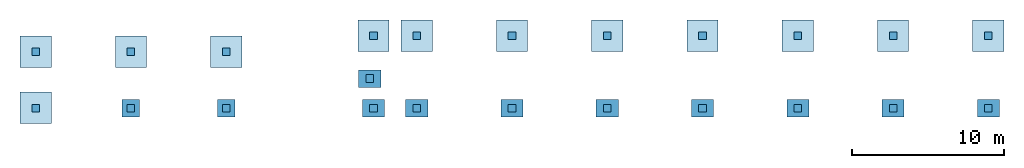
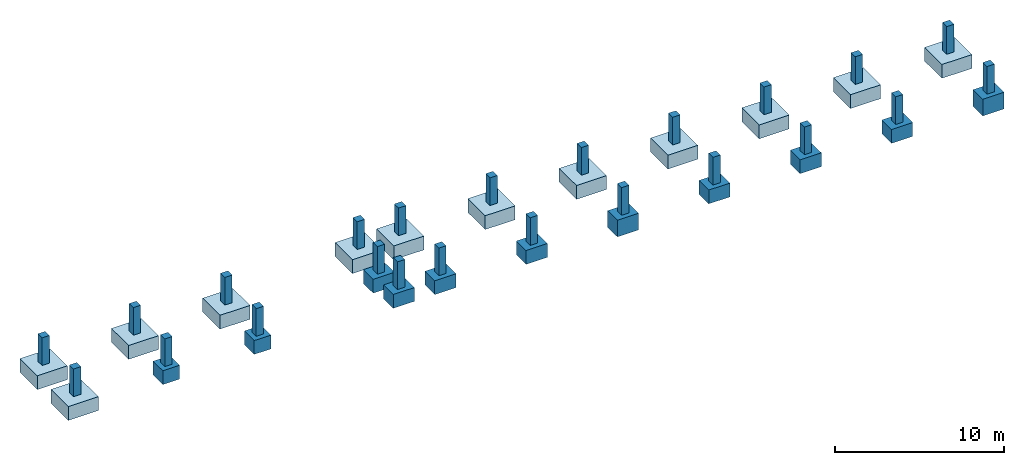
# One storey: 46 footings.
"""IFC2X3 building model written with IfcOpenShell, lengths in metres."""

from ifc_helpers import new_model, entity, si_unit, converted_unit, derived_unit, frame, frame_2d, origin, origin_with_axes, place, context, subcontext, project, spatial, rectangle, extrude, material, element, save


model = new_model("IFC2X3")

# Units and contexts
model_context = context("Model", 3, precision=1e-05, world=origin())
body_context = subcontext(model_context, "Body", "Model", "MODEL_VIEW")
ifc_project = project(units=[si_unit("LENGTHUNIT", "METRE"), si_unit("AREAUNIT", "SQUARE_METRE"), si_unit("VOLUMEUNIT", "CUBIC_METRE"), si_unit("MASSUNIT", "GRAM", prefix="KILO"), converted_unit("PLANEANGLEUNIT", "DEGREE", entity("IfcPlaneAngleMeasure", 0.0174532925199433), si_unit("PLANEANGLEUNIT", "RADIAN"), dimensions=[0, 0, 0, 0, 0, 0, 0]), derived_unit("THERMALTRANSMITTANCEUNIT", [(si_unit("POWERUNIT", "WATT"), 1), (si_unit("THERMODYNAMICTEMPERATUREUNIT", "KELVIN"), -1), (si_unit("LENGTHUNIT", "METRE"), -2)]), derived_unit("VOLUMETRICFLOWRATEUNIT", [(si_unit("LENGTHUNIT", "METRE"), 3), (converted_unit("TIMEUNIT", "hour", entity("IfcTimeMeasure", 3600.0), si_unit("TIMEUNIT", "SECOND"), dimensions=[0, 0, 1, 0, 0, 0, 0]), -1), (si_unit("LENGTHUNIT", "METRE"), -1)])], contexts=[model_context])

# Site, building, storey
site_placement = place(None, origin())
site = spatial("IfcSite", under=ifc_project, at=site_placement, Name="TWP_Speiseverteilzentrum SBW VZ II", CompositionType="ELEMENT")
building_placement = place(site_placement, origin())
building = spatial("IfcBuilding", under=site, at=building_placement, Name="Speiseverteilzentrum SBW VZ II", CompositionType="ELEMENT")
storey_placement = place(building_placement, frame((0.0, 0.0, -1.884)))
storey = spatial("IfcBuildingStorey", under=building, at=storey_placement, Name="Grundleitungsebene", CompositionType="ELEMENT", Elevation=-1.884)

# Footings
ifc_material_1 = material(Name="Stahlbeton")
footing_1_placement = place(storey_placement, frame((109.75, 87.2249999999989, 1.2)))
element("IfcFooting", 1, at=footing_1_placement, inside=storey, material=ifc_material_1, Name="Stb.-Sockel", ObjectType="COLUMN_FOUNDATION", PredefinedType="USERDEFINED", context=body_context, shape_type="SweptSolid", body=[
    extrude(rectangle(XDim=0.5, YDim=0.5, at=frame_2d((0.25, 0.25), x_axis=(1.0, 0.0))), origin_with_axes(), (0.0, 0.0, 1.0), 2.0),
])
ifc_material_2 = material(Name="Stahlbeton")
footing_2_placement = place(storey_placement, frame((84.75, 87.2249999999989, 1.2)))
element("IfcFooting", 2, at=footing_2_placement, inside=storey, material=ifc_material_2, Name="Stb.-Sockel", ObjectType="COLUMN_FOUNDATION", PredefinedType="USERDEFINED", context=body_context, shape_type="SweptSolid", body=[
    extrude(rectangle(XDim=0.5, YDim=0.5, at=frame_2d((0.25, 0.25), x_axis=(1.0, 0.0))), origin_with_axes(), (0.0, 0.0, 1.0), 2.0),
])
ifc_material_3 = material(Name="Stahlbeton")
footing_3_placement = place(storey_placement, frame((109.275000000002, 86.8999999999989, 0.0)))
element("IfcFooting", 3, at=footing_3_placement, inside=storey, material=ifc_material_3, Name="Stb.-Einzelfundament", ObjectType="COLUMN_FOUNDATION", PredefinedType="USERDEFINED", context=body_context, shape_type="SweptSolid", body=[
    extrude(rectangle(XDim=1.45, YDim=1.15, at=frame_2d((0.725, 0.575), x_axis=(1.0, 0.0))), origin_with_axes(), (0.0, 0.0, 1.0), 1.2),
])
ifc_material_4 = material(Name="Stahlbeton")
footing_4_placement = place(storey_placement, frame((84.275000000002, 86.8999999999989, 0.0)))
element("IfcFooting", 4, at=footing_4_placement, inside=storey, material=ifc_material_4, Name="Stb.-Einzelfundament", ObjectType="COLUMN_FOUNDATION", PredefinedType="USERDEFINED", context=body_context, shape_type="SweptSolid", body=[
    extrude(rectangle(XDim=1.45, YDim=1.15, at=frame_2d((0.725, 0.575), x_axis=(1.0, 0.0))), origin_with_axes(), (0.0, 0.0, 1.0), 1.2),
])
ifc_material_5 = material(Name="Stahlbeton")
footing_5_placement = place(storey_placement, frame((78.5, 87.2249999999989, 1.2)))
element("IfcFooting", 5, at=footing_5_placement, inside=storey, material=ifc_material_5, Name="Stb.-Sockel", ObjectType="COLUMN_FOUNDATION", PredefinedType="USERDEFINED", context=body_context, shape_type="SweptSolid", body=[
    extrude(rectangle(XDim=0.5, YDim=0.5, at=frame_2d((0.25, 0.25), x_axis=(1.0, 0.0))), origin_with_axes(), (0.0, 0.0, 1.0), 2.0),
])
ifc_material_6 = material(Name="Stahlbeton")
footing_6_placement = place(storey_placement, frame((72.25, 87.2249999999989, 1.2)))
element("IfcFooting", 6, at=footing_6_placement, inside=storey, material=ifc_material_6, Name="Stb.-Sockel", ObjectType="COLUMN_FOUNDATION", PredefinedType="USERDEFINED", context=body_context, shape_type="SweptSolid", body=[
    extrude(rectangle(XDim=0.5, YDim=0.5, at=frame_2d((0.25, 0.25), x_axis=(1.0, 0.0))), origin_with_axes(), (0.0, 0.0, 1.0), 2.0),
])
ifc_material_7 = material(Name="Stahlbeton")
footing_7_placement = place(storey_placement, frame((69.1687031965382, 89.1849999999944, 1.2)))
element("IfcFooting", 7, at=footing_7_placement, inside=storey, material=ifc_material_7, Name="Stb.-Sockel", ObjectType="COLUMN_FOUNDATION", PredefinedType="USERDEFINED", context=body_context, shape_type="SweptSolid", body=[
    extrude(rectangle(XDim=0.5, YDim=0.5, at=frame_2d((0.25, 0.25), x_axis=(1.0, 0.0))), origin_with_axes(), (0.0, 0.0, 1.0), 2.0),
])
ifc_material_8 = material(Name="Stahlbeton")
footing_8_placement = place(storey_placement, frame((69.4137031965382, 87.2249999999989, 1.2)))
element("IfcFooting", 8, at=footing_8_placement, inside=storey, material=ifc_material_8, Name="Stb.-Sockel", ObjectType="COLUMN_FOUNDATION", PredefinedType="USERDEFINED", context=body_context, shape_type="SweptSolid", body=[
    extrude(rectangle(XDim=0.5, YDim=0.5, at=frame_2d((0.25, 0.25), x_axis=(1.0, 0.0))), origin_with_axes(), (0.0, 0.0, 1.0), 2.0),
])
ifc_material_9 = material(Name="Stahlbeton")
footing_9_placement = place(storey_placement, frame((68.6937031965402, 88.8599999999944, 0.2)))
element("IfcFooting", 9, at=footing_9_placement, inside=storey, material=ifc_material_9, Name="Stb.-Einzelfundament", ObjectType="COLUMN_FOUNDATION", PredefinedType="USERDEFINED", context=body_context, shape_type="SweptSolid", body=[
    extrude(rectangle(XDim=1.45, YDim=1.15, at=frame_2d((0.725, 0.575), x_axis=(1.0, 0.0))), origin_with_axes(), (0.0, 0.0, 1.0), 1.0),
])
ifc_material_10 = material(Name="Stahlbeton")
footing_10_placement = place(storey_placement, frame((78.025000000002, 86.8999999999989, 0.2)))
element("IfcFooting", 10, at=footing_10_placement, inside=storey, material=ifc_material_10, Name="Stb.-Einzelfundament", ObjectType="COLUMN_FOUNDATION", PredefinedType="USERDEFINED", context=body_context, shape_type="SweptSolid", body=[
    extrude(rectangle(XDim=1.45, YDim=1.15, at=frame_2d((0.725, 0.575), x_axis=(1.0, 0.0))), origin_with_axes(), (0.0, 0.0, 1.0), 1.0),
])
ifc_material_11 = material(Name="Stahlbeton")
footing_11_placement = place(storey_placement, frame((71.775000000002, 86.8999999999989, 0.2)))
element("IfcFooting", 11, at=footing_11_placement, inside=storey, material=ifc_material_11, Name="Stb.-Einzelfundament", ObjectType="COLUMN_FOUNDATION", PredefinedType="USERDEFINED", context=body_context, shape_type="SweptSolid", body=[
    extrude(rectangle(XDim=1.45, YDim=1.15, at=frame_2d((0.725, 0.575), x_axis=(1.0, 0.0))), origin_with_axes(), (0.0, 0.0, 1.0), 1.0),
])
ifc_material_12 = material(Name="Stahlbeton")
footing_12_placement = place(storey_placement, frame((68.9387031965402, 86.8999999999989, 0.2)))
element("IfcFooting", 12, at=footing_12_placement, inside=storey, material=ifc_material_12, Name="Stb.-Einzelfundament", ObjectType="COLUMN_FOUNDATION", PredefinedType="USERDEFINED", context=body_context, shape_type="SweptSolid", body=[
    extrude(rectangle(XDim=1.45, YDim=1.15, at=frame_2d((0.725, 0.575), x_axis=(1.0, 0.0))), origin_with_axes(), (0.0, 0.0, 1.0), 1.0),
])
ifc_material_13 = material(Name="Stahlbeton")
footing_13_placement = place(storey_placement, frame((53.5, 87.2249999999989, 1.2)))
element("IfcFooting", 13, at=footing_13_placement, inside=storey, material=ifc_material_13, Name="Stb.-Sockel", ObjectType="COLUMN_FOUNDATION", PredefinedType="USERDEFINED", context=body_context, shape_type="SweptSolid", body=[
    extrude(rectangle(XDim=0.5, YDim=0.5, at=frame_2d((0.25, 0.25), x_axis=(1.0, 0.0))), origin_with_axes(), (0.0, 0.0, 1.0), 2.0),
])
ifc_material_14 = material(Name="Stahlbeton")
footing_14_placement = place(storey_placement, frame((59.75, 87.2249999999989, 1.2)))
element("IfcFooting", 14, at=footing_14_placement, inside=storey, material=ifc_material_14, Name="Stb.-Sockel", ObjectType="COLUMN_FOUNDATION", PredefinedType="USERDEFINED", context=body_context, shape_type="SweptSolid", body=[
    extrude(rectangle(XDim=0.5, YDim=0.5, at=frame_2d((0.25, 0.25), x_axis=(1.0, 0.0))), origin_with_axes(), (0.0, 0.0, 1.0), 2.0),
])
ifc_material_15 = material(Name="Stahlbeton")
footing_15_placement = place(storey_placement, frame((91.0, 87.2249999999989, 1.2)))
element("IfcFooting", 15, at=footing_15_placement, inside=storey, material=ifc_material_15, Name="Stb.-Sockel", ObjectType="COLUMN_FOUNDATION", PredefinedType="USERDEFINED", context=body_context, shape_type="SweptSolid", body=[
    extrude(rectangle(XDim=0.5, YDim=0.5, at=frame_2d((0.25, 0.25), x_axis=(1.0, 0.0))), origin_with_axes(), (0.0, 0.0, 1.0), 2.0),
])
ifc_material_16 = material(Name="Stahlbeton")
footing_16_placement = place(storey_placement, frame((97.25, 87.2249999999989, 1.2)))
element("IfcFooting", 16, at=footing_16_placement, inside=storey, material=ifc_material_16, Name="Stb.-Sockel", ObjectType="COLUMN_FOUNDATION", PredefinedType="USERDEFINED", context=body_context, shape_type="SweptSolid", body=[
    extrude(rectangle(XDim=0.5, YDim=0.5, at=frame_2d((0.25, 0.25), x_axis=(1.0, 0.0))), origin_with_axes(), (0.0, 0.0, 1.0), 2.0),
])
ifc_material_17 = material(Name="Stahlbeton")
footing_17_placement = place(storey_placement, frame((103.5, 87.2249999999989, 1.2)))
element("IfcFooting", 17, at=footing_17_placement, inside=storey, material=ifc_material_17, Name="Stb.-Sockel", ObjectType="COLUMN_FOUNDATION", PredefinedType="USERDEFINED", context=body_context, shape_type="SweptSolid", body=[
    extrude(rectangle(XDim=0.5, YDim=0.5, at=frame_2d((0.25, 0.25), x_axis=(1.0, 0.0))), origin_with_axes(), (0.0, 0.0, 1.0), 2.0),
])
ifc_material_18 = material(Name="Stahlbeton")
footing_18_placement = place(storey_placement, frame((90.525000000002, 86.8999999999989, 0.2)))
element("IfcFooting", 18, at=footing_18_placement, inside=storey, material=ifc_material_18, Name="Stb.-Einzelfundament", ObjectType="COLUMN_FOUNDATION", PredefinedType="USERDEFINED", context=body_context, shape_type="SweptSolid", body=[
    extrude(rectangle(XDim=1.45, YDim=1.15, at=frame_2d((0.725, 0.575), x_axis=(1.0, 0.0))), origin_with_axes(), (0.0, 0.0, 1.0), 1.0),
])
ifc_material_19 = material(Name="Stahlbeton")
footing_19_placement = place(storey_placement, frame((96.775000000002, 86.8999999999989, 0.2)))
element("IfcFooting", 19, at=footing_19_placement, inside=storey, material=ifc_material_19, Name="Stb.-Einzelfundament", ObjectType="COLUMN_FOUNDATION", PredefinedType="USERDEFINED", context=body_context, shape_type="SweptSolid", body=[
    extrude(rectangle(XDim=1.45, YDim=1.15, at=frame_2d((0.725, 0.575), x_axis=(1.0, 0.0))), origin_with_axes(), (0.0, 0.0, 1.0), 1.0),
])
ifc_material_20 = material(Name="Stahlbeton")
footing_20_placement = place(storey_placement, frame((103.025000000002, 86.8999999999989, 0.2)))
element("IfcFooting", 20, at=footing_20_placement, inside=storey, material=ifc_material_20, Name="Stb.-Einzelfundament", ObjectType="COLUMN_FOUNDATION", PredefinedType="USERDEFINED", context=body_context, shape_type="SweptSolid", body=[
    extrude(rectangle(XDim=1.45, YDim=1.15, at=frame_2d((0.725, 0.575), x_axis=(1.0, 0.0))), origin_with_axes(), (0.0, 0.0, 1.0), 1.0),
])
ifc_material_21 = material(Name="Stahlbeton")
footing_21_placement = place(storey_placement, frame((53.175, 86.8999999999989, 0.2)))
element("IfcFooting", 21, at=footing_21_placement, inside=storey, material=ifc_material_21, Name="Stb.-Einzelfundament", ObjectType="COLUMN_FOUNDATION", PredefinedType="USERDEFINED", context=body_context, shape_type="SweptSolid", body=[
    extrude(rectangle(XDim=1.15, YDim=1.15, at=frame_2d((0.575, 0.575), x_axis=(1.0, 0.0))), origin_with_axes(), (0.0, 0.0, 1.0), 1.0),
])
ifc_material_22 = material(Name="Stahlbeton")
footing_22_placement = place(storey_placement, frame((59.425, 86.8999999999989, 0.2)))
element("IfcFooting", 22, at=footing_22_placement, inside=storey, material=ifc_material_22, Name="Stb.-Einzelfundament", ObjectType="COLUMN_FOUNDATION", PredefinedType="USERDEFINED", context=body_context, shape_type="SweptSolid", body=[
    extrude(rectangle(XDim=1.15, YDim=1.15, at=frame_2d((0.575, 0.575), x_axis=(1.0, 0.0))), origin_with_axes(), (0.0, 0.0, 1.0), 1.0),
])
ifc_material_23 = material(Name="Stahlbeton")
footing_23_placement = place(storey_placement, frame((109.75, 91.9999999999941, 1.2)))
element("IfcFooting", 23, at=footing_23_placement, inside=storey, material=ifc_material_23, Name="Stb.-Sockel", ObjectType="COLUMN_FOUNDATION", PredefinedType="USERDEFINED", context=body_context, shape_type="SweptSolid", body=[
    extrude(rectangle(XDim=0.5, YDim=0.5, at=frame_2d((0.25, 0.25), x_axis=(1.0, 0.0))), origin_with_axes(), (0.0, 0.0, 1.0), 2.0),
])
ifc_material_24 = material(Name="Stahlbeton")
footing_24_placement = place(storey_placement, frame((108.975, 91.2249999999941, 0.2)))
element("IfcFooting", 24, at=footing_24_placement, inside=storey, material=ifc_material_24, Name="Stb.-Einzelfundament", PredefinedType="PAD_FOOTING", context=body_context, shape_type="SweptSolid", body=[
    extrude(rectangle(XDim=2.05, YDim=2.05, at=frame_2d((1.025, 1.025), x_axis=(1.0, 0.0))), origin_with_axes(), (0.0, 0.0, 1.0), 1.0),
])
ifc_material_25 = material(Name="Stahlbeton")
footing_25_placement = place(storey_placement, frame((103.5, 91.9999999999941, 1.2)))
element("IfcFooting", 25, at=footing_25_placement, inside=storey, material=ifc_material_25, Name="Stb.-Sockel", ObjectType="COLUMN_FOUNDATION", PredefinedType="USERDEFINED", context=body_context, shape_type="SweptSolid", body=[
    extrude(rectangle(XDim=0.5, YDim=0.5, at=frame_2d((0.25, 0.25), x_axis=(1.0, 0.0))), origin_with_axes(), (0.0, 0.0, 1.0), 2.0),
])
ifc_material_26 = material(Name="Stahlbeton")
footing_26_placement = place(storey_placement, frame((97.25, 91.9999999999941, 1.2)))
element("IfcFooting", 26, at=footing_26_placement, inside=storey, material=ifc_material_26, Name="Stb.-Sockel", ObjectType="COLUMN_FOUNDATION", PredefinedType="USERDEFINED", context=body_context, shape_type="SweptSolid", body=[
    extrude(rectangle(XDim=0.5, YDim=0.5, at=frame_2d((0.25, 0.25), x_axis=(1.0, 0.0))), origin_with_axes(), (0.0, 0.0, 1.0), 2.0),
])
ifc_material_27 = material(Name="Stahlbeton")
footing_27_placement = place(storey_placement, frame((91.0, 91.9999999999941, 1.2)))
element("IfcFooting", 27, at=footing_27_placement, inside=storey, material=ifc_material_27, Name="Stb.-Sockel", ObjectType="COLUMN_FOUNDATION", PredefinedType="USERDEFINED", context=body_context, shape_type="SweptSolid", body=[
    extrude(rectangle(XDim=0.5, YDim=0.5, at=frame_2d((0.25, 0.25), x_axis=(1.0, 0.0))), origin_with_axes(), (0.0, 0.0, 1.0), 2.0),
])
ifc_material_28 = material(Name="Stahlbeton")
footing_28_placement = place(storey_placement, frame((84.75, 91.9999999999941, 1.2)))
element("IfcFooting", 28, at=footing_28_placement, inside=storey, material=ifc_material_28, Name="Stb.-Sockel", ObjectType="COLUMN_FOUNDATION", PredefinedType="USERDEFINED", context=body_context, shape_type="SweptSolid", body=[
    extrude(rectangle(XDim=0.5, YDim=0.5, at=frame_2d((0.25, 0.25), x_axis=(1.0, 0.0))), origin_with_axes(), (0.0, 0.0, 1.0), 2.0),
])
ifc_material_29 = material(Name="Stahlbeton")
footing_29_placement = place(storey_placement, frame((78.5, 91.9999999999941, 1.2)))
element("IfcFooting", 29, at=footing_29_placement, inside=storey, material=ifc_material_29, Name="Stb.-Sockel", ObjectType="COLUMN_FOUNDATION", PredefinedType="USERDEFINED", context=body_context, shape_type="SweptSolid", body=[
    extrude(rectangle(XDim=0.5, YDim=0.5, at=frame_2d((0.25, 0.25), x_axis=(1.0, 0.0))), origin_with_axes(), (0.0, 0.0, 1.0), 2.0),
])
ifc_material_30 = material(Name="Stahlbeton")
footing_30_placement = place(storey_placement, frame((72.25, 91.9999999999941, 1.2)))
element("IfcFooting", 30, at=footing_30_placement, inside=storey, material=ifc_material_30, Name="Stb.-Sockel", ObjectType="COLUMN_FOUNDATION", PredefinedType="USERDEFINED", context=body_context, shape_type="SweptSolid", body=[
    extrude(rectangle(XDim=0.5, YDim=0.5, at=frame_2d((0.25, 0.25), x_axis=(1.0, 0.0))), origin_with_axes(), (0.0, 0.0, 1.0), 2.0),
])
ifc_material_31 = material(Name="Stahlbeton")
footing_31_placement = place(storey_placement, frame((69.4137031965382, 91.9999999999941, 1.2)))
element("IfcFooting", 31, at=footing_31_placement, inside=storey, material=ifc_material_31, Name="Stb.-Sockel", ObjectType="COLUMN_FOUNDATION", PredefinedType="USERDEFINED", context=body_context, shape_type="SweptSolid", body=[
    extrude(rectangle(XDim=0.5, YDim=0.5, at=frame_2d((0.25, 0.25), x_axis=(1.0, 0.0))), origin_with_axes(), (0.0, 0.0, 1.0), 2.0),
])
ifc_material_32 = material(Name="Stahlbeton")
footing_32_placement = place(storey_placement, frame((102.725, 91.2249999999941, 0.2)))
element("IfcFooting", 32, at=footing_32_placement, inside=storey, material=ifc_material_32, Name="Stb.-Einzelfundament", PredefinedType="PAD_FOOTING", context=body_context, shape_type="SweptSolid", body=[
    extrude(rectangle(XDim=2.05, YDim=2.05, at=frame_2d((1.025, 1.025), x_axis=(1.0, 0.0))), origin_with_axes(), (0.0, 0.0, 1.0), 1.0),
])
ifc_material_33 = material(Name="Stahlbeton")
footing_33_placement = place(storey_placement, frame((96.475, 91.2249999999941, 0.2)))
element("IfcFooting", 33, at=footing_33_placement, inside=storey, material=ifc_material_33, Name="Stb.-Einzelfundament", PredefinedType="PAD_FOOTING", context=body_context, shape_type="SweptSolid", body=[
    extrude(rectangle(XDim=2.05, YDim=2.05, at=frame_2d((1.025, 1.025), x_axis=(1.0, 0.0))), origin_with_axes(), (0.0, 0.0, 1.0), 1.0),
])
ifc_material_34 = material(Name="Stahlbeton")
footing_34_placement = place(storey_placement, frame((90.225, 91.2249999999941, 0.2)))
element("IfcFooting", 34, at=footing_34_placement, inside=storey, material=ifc_material_34, Name="Stb.-Einzelfundament", PredefinedType="PAD_FOOTING", context=body_context, shape_type="SweptSolid", body=[
    extrude(rectangle(XDim=2.05, YDim=2.05, at=frame_2d((1.025, 1.025), x_axis=(1.0, 0.0))), origin_with_axes(), (0.0, 0.0, 1.0), 1.0),
])
ifc_material_35 = material(Name="Stahlbeton")
footing_35_placement = place(storey_placement, frame((83.975, 91.2249999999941, 0.2)))
element("IfcFooting", 35, at=footing_35_placement, inside=storey, material=ifc_material_35, Name="Stb.-Einzelfundament", PredefinedType="PAD_FOOTING", context=body_context, shape_type="SweptSolid", body=[
    extrude(rectangle(XDim=2.05, YDim=2.05, at=frame_2d((1.025, 1.025), x_axis=(1.0, 0.0))), origin_with_axes(), (0.0, 0.0, 1.0), 1.0),
])
ifc_material_36 = material(Name="Stahlbeton")
footing_36_placement = place(storey_placement, frame((77.725, 91.2249999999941, 0.2)))
element("IfcFooting", 36, at=footing_36_placement, inside=storey, material=ifc_material_36, Name="Stb.-Einzelfundament", PredefinedType="PAD_FOOTING", context=body_context, shape_type="SweptSolid", body=[
    extrude(rectangle(XDim=2.05, YDim=2.05, at=frame_2d((1.025, 1.025), x_axis=(1.0, 0.0))), origin_with_axes(), (0.0, 0.0, 1.0), 1.0),
])
ifc_material_37 = material(Name="Stahlbeton")
footing_37_placement = place(storey_placement, frame((71.475, 91.2249999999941, 0.2)))
element("IfcFooting", 37, at=footing_37_placement, inside=storey, material=ifc_material_37, Name="Stb.-Einzelfundament", PredefinedType="PAD_FOOTING", context=body_context, shape_type="SweptSolid", body=[
    extrude(rectangle(XDim=2.05, YDim=2.05, at=frame_2d((1.025, 1.025), x_axis=(1.0, 0.0))), origin_with_axes(), (0.0, 0.0, 1.0), 1.0),
])
ifc_material_38 = material(Name="Stahlbeton")
footing_38_placement = place(storey_placement, frame((68.6387031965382, 91.2249999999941, 0.2)))
element("IfcFooting", 38, at=footing_38_placement, inside=storey, material=ifc_material_38, Name="Stb.-Einzelfundament", PredefinedType="PAD_FOOTING", context=body_context, shape_type="SweptSolid", body=[
    extrude(rectangle(XDim=2.05, YDim=2.05, at=frame_2d((1.025, 1.025), x_axis=(1.0, 0.0))), origin_with_axes(), (0.0, 0.0, 1.0), 1.0),
])
ifc_material_39 = material(Name="Stahlbeton")
footing_39_placement = place(storey_placement, frame((59.75, 90.9499999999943, 1.2)))
element("IfcFooting", 39, at=footing_39_placement, inside=storey, material=ifc_material_39, Name="Stb.-Sockel", ObjectType="COLUMN_FOUNDATION", PredefinedType="USERDEFINED", context=body_context, shape_type="SweptSolid", body=[
    extrude(rectangle(XDim=0.5, YDim=0.5, at=frame_2d((0.25, 0.25), x_axis=(1.0, 0.0))), origin_with_axes(), (0.0, 0.0, 1.0), 2.0),
])
ifc_material_40 = material(Name="Stahlbeton")
footing_40_placement = place(storey_placement, frame((53.5, 90.9499999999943, 1.2)))
element("IfcFooting", 40, at=footing_40_placement, inside=storey, material=ifc_material_40, Name="Stb.-Sockel", ObjectType="COLUMN_FOUNDATION", PredefinedType="USERDEFINED", context=body_context, shape_type="SweptSolid", body=[
    extrude(rectangle(XDim=0.5, YDim=0.5, at=frame_2d((0.25, 0.25), x_axis=(1.0, 0.0))), origin_with_axes(), (0.0, 0.0, 1.0), 2.0),
])
ifc_material_41 = material(Name="Stahlbeton")
footing_41_placement = place(storey_placement, frame((47.25, 90.9499999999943, 1.2)))
element("IfcFooting", 41, at=footing_41_placement, inside=storey, material=ifc_material_41, Name="Stb.-Sockel", ObjectType="COLUMN_FOUNDATION", PredefinedType="USERDEFINED", context=body_context, shape_type="SweptSolid", body=[
    extrude(rectangle(XDim=0.5, YDim=0.5, at=frame_2d((0.25, 0.25), x_axis=(1.0, 0.0))), origin_with_axes(), (0.0, 0.0, 1.0), 2.0),
])
ifc_material_42 = material(Name="Stahlbeton")
footing_42_placement = place(storey_placement, frame((47.25, 87.2249999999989, 1.2)))
element("IfcFooting", 42, at=footing_42_placement, inside=storey, material=ifc_material_42, Name="Stb.-Sockel", ObjectType="COLUMN_FOUNDATION", PredefinedType="USERDEFINED", context=body_context, shape_type="SweptSolid", body=[
    extrude(rectangle(XDim=0.5, YDim=0.5, at=frame_2d((0.25, 0.25), x_axis=(1.0, 0.0))), origin_with_axes(), (0.0, 0.0, 1.0), 2.0),
])
ifc_material_43 = material(Name="Stahlbeton")
footing_43_placement = place(storey_placement, frame((52.725, 90.1749999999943, 0.2)))
element("IfcFooting", 43, at=footing_43_placement, inside=storey, material=ifc_material_43, Name="Stb.-Einzelfundament", PredefinedType="PAD_FOOTING", context=body_context, shape_type="SweptSolid", body=[
    extrude(rectangle(XDim=2.05, YDim=2.05, at=frame_2d((1.025, 1.025), x_axis=(1.0, 0.0))), origin_with_axes(), (0.0, 0.0, 1.0), 1.0),
])
ifc_material_44 = material(Name="Stahlbeton")
footing_44_placement = place(storey_placement, frame((58.975, 90.1749999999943, 0.2)))
element("IfcFooting", 44, at=footing_44_placement, inside=storey, material=ifc_material_44, Name="Stb.-Einzelfundament", PredefinedType="PAD_FOOTING", context=body_context, shape_type="SweptSolid", body=[
    extrude(rectangle(XDim=2.05, YDim=2.05, at=frame_2d((1.025, 1.025), x_axis=(1.0, 0.0))), origin_with_axes(), (0.0, 0.0, 1.0), 1.0),
])
ifc_material_45 = material(Name="Stahlbeton")
footing_45_placement = place(storey_placement, frame((46.475, 90.1749999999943, 0.2)))
element("IfcFooting", 45, at=footing_45_placement, inside=storey, material=ifc_material_45, Name="Stb.-Einzelfundament", PredefinedType="PAD_FOOTING", context=body_context, shape_type="SweptSolid", body=[
    extrude(rectangle(XDim=2.05, YDim=2.05, at=frame_2d((1.025, 1.025), x_axis=(1.0, 0.0))), origin_with_axes(), (0.0, 0.0, 1.0), 1.0),
])
ifc_material_46 = material(Name="Stahlbeton")
footing_46_placement = place(storey_placement, frame((46.475, 86.5000000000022, 0.2)))
element("IfcFooting", 46, at=footing_46_placement, inside=storey, material=ifc_material_46, Name="Stb.-Einzelfundament", PredefinedType="PAD_FOOTING", context=body_context, shape_type="SweptSolid", body=[
    extrude(rectangle(XDim=2.05, YDim=2.05, at=frame_2d((1.025, 1.025), x_axis=(1.0, 0.0))), origin_with_axes(), (0.0, 0.0, 1.0), 1.0),
])

save(model, "model.ifc")
